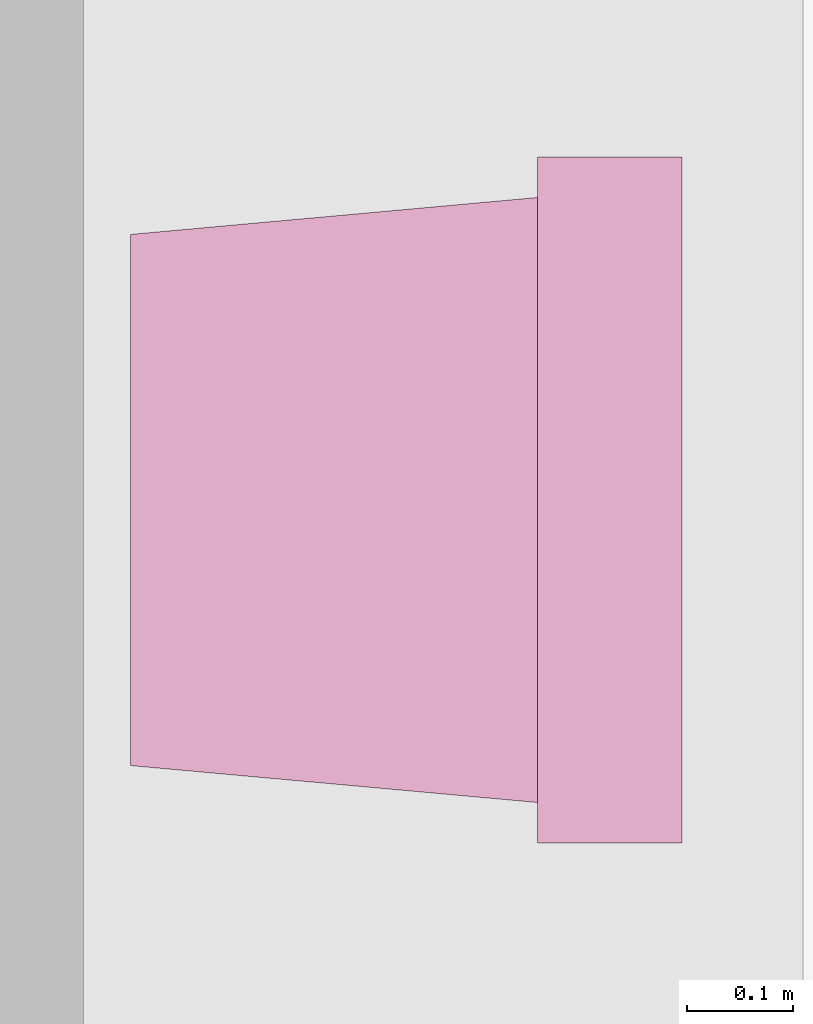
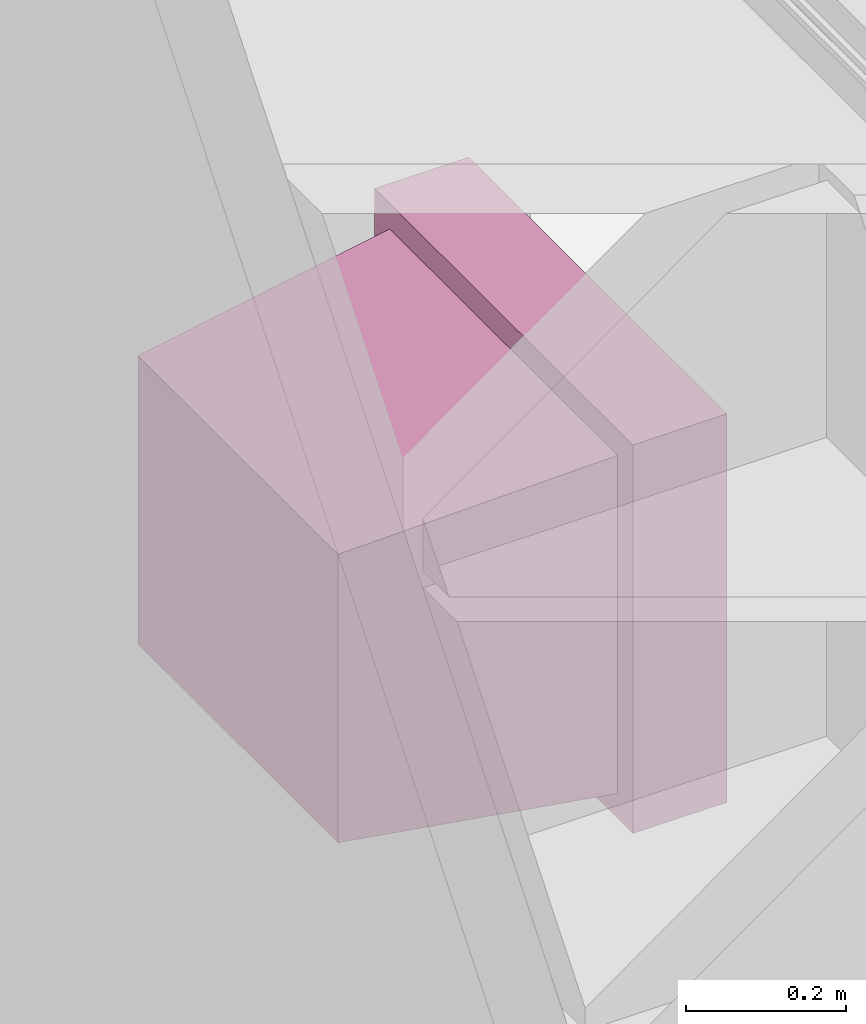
# One storey, part 26 of 28: 1 furnishing.
"""IFC2X3 building model written with IfcOpenShell, lengths in feet."""

from ifc_helpers import new_model, entity, si_unit, converted_unit, derived_unit, direction, frame, origin, place, context, subcontext, project, spatial, faceted_brep, source, transform, mapped, material, material_list, type_object, type_shapes, element, save


model = new_model("IFC2X3")

# Units and contexts
model_context = context("Model", 3, precision=0.0001, world=origin(), true_north=direction((6.12303176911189e-17, 1.0)))
body_context = subcontext(model_context, "Body", "Model", "MODEL_VIEW")
ifc_project = project(units=[converted_unit("LENGTHUNIT", "FOOT", entity("IfcRatioMeasure", 0.3048), si_unit("LENGTHUNIT", "METRE"), dimensions=[1, 0, 0, 0, 0, 0, 0]), converted_unit("AREAUNIT", "SQUARE FOOT", entity("IfcRatioMeasure", 0.09290304), si_unit("AREAUNIT", "SQUARE_METRE"), dimensions=[2, 0, 0, 0, 0, 0, 0]), converted_unit("VOLUMEUNIT", "CUBIC FOOT", entity("IfcRatioMeasure", 0.028316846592), si_unit("VOLUMEUNIT", "CUBIC_METRE"), dimensions=[3, 0, 0, 0, 0, 0, 0]), converted_unit("PLANEANGLEUNIT", "DEGREE", entity("IfcRatioMeasure", 0.0174532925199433), si_unit("PLANEANGLEUNIT", "RADIAN"), dimensions=[0, 0, 0, 0, 0, 0, 0]), si_unit("MASSUNIT", "GRAM", prefix="KILO"), derived_unit("MASSDENSITYUNIT", [(si_unit("MASSUNIT", "GRAM", prefix="KILO"), 1), (si_unit("LENGTHUNIT", "METRE"), -3)]), si_unit("TIMEUNIT", "SECOND"), si_unit("FREQUENCYUNIT", "HERTZ"), si_unit("THERMODYNAMICTEMPERATUREUNIT", "DEGREE_CELSIUS"), derived_unit("THERMALTRANSMITTANCEUNIT", [(si_unit("MASSUNIT", "GRAM", prefix="KILO"), 1), (si_unit("THERMODYNAMICTEMPERATUREUNIT", "KELVIN"), -1), (si_unit("TIMEUNIT", "SECOND"), -3)]), derived_unit("VOLUMETRICFLOWRATEUNIT", [(si_unit("LENGTHUNIT", "METRE"), 3), (si_unit("TIMEUNIT", "SECOND"), -1)]), si_unit("ELECTRICCURRENTUNIT", "AMPERE"), si_unit("ELECTRICVOLTAGEUNIT", "VOLT"), si_unit("POWERUNIT", "WATT"), si_unit("FORCEUNIT", "NEWTON"), si_unit("ILLUMINANCEUNIT", "LUX"), si_unit("LUMINOUSFLUXUNIT", "LUMEN"), si_unit("LUMINOUSINTENSITYUNIT", "CANDELA"), derived_unit("USERDEFINED", [(si_unit("MASSUNIT", "GRAM", prefix="KILO"), -1), (si_unit("LENGTHUNIT", "METRE"), -2), (si_unit("TIMEUNIT", "SECOND"), 3), (si_unit("LUMINOUSFLUXUNIT", "LUMEN"), 1)]), derived_unit("LINEARVELOCITYUNIT", [(si_unit("LENGTHUNIT", "METRE"), 1), (si_unit("TIMEUNIT", "SECOND"), -1)]), si_unit("PRESSUREUNIT", "PASCAL"), derived_unit("USERDEFINED", [(si_unit("LENGTHUNIT", "METRE"), -2), (si_unit("MASSUNIT", "GRAM", prefix="KILO"), 1), (si_unit("TIMEUNIT", "SECOND"), -2)])], contexts=[model_context])

# Site, building, storey
site_placement = place(None, origin())
site = spatial("IfcSite", under=ifc_project, at=site_placement, Name="表面", CompositionType="ELEMENT")
building_placement = place(site_placement, origin())
building = spatial("IfcBuilding", under=site, at=building_placement, CompositionType="ELEMENT")
storey_placement = place(building_placement, frame((0.0, 0.0, 10.0)))
storey = spatial("IfcBuildingStorey", under=building, at=storey_placement, Name="Level 2", CompositionType="ELEMENT", Elevation=9.99999999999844)

# Furnishing
ifc_material_1 = material(Name="Plastic - Gray")
ifc_material_2 = material(Name="Glass")
ifc_material_list_1 = material_list([ifc_material_1, ifc_material_2])
ifc_material_list_2 = material_list([ifc_material_1, ifc_material_2])
furniture_type = type_object("IfcFurnitureType", Name="27\"", material=ifc_material_list_2)
shared_shape = source(origin(), body_context, "Body", "Brep", [
    faceted_brep([(1.06250000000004, -0.725260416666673, 1.95052083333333), (-1.06249999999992, -0.725260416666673, 1.95052083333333), (-1.06249999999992, -1.17317708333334, 1.95052083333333), (1.06250000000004, -1.17317708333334, 1.95052083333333), (1.06250000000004, -0.725260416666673, 0.0), (1.06250000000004, -1.17317708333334, 0.0), (-1.06249999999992, -1.17317708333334, 0.0), (-1.06249999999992, -0.725260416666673, 0.0), (0.937500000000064, -1.17317708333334, 1.82291666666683), (0.937500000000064, -1.17317708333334, 0.249999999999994), (-0.937500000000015, -1.17317708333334, 0.249999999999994), (-0.937500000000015, -1.17317708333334, 1.82291666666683), (0.937500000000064, -1.12485700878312, 1.82291666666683), (-0.937500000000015, -1.12485700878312, 1.82291666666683), (-0.937500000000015, -1.12485700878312, 0.249999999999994), (0.937500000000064, -1.12485700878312, 0.249999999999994)], [[[0, 1, 2, 3]], [[4, 5, 6, 7]], [[1, 0, 4, 7]], [[2, 1, 7, 6]], [[3, 2, 6, 5], [8, 9, 10, 11]], [[0, 3, 5, 4]], [[12, 13, 14, 15]], [[12, 15, 9, 8]], [[15, 14, 10, 9]], [[14, 13, 11, 10]], [[13, 12, 8, 11]]]),
    faceted_brep([(0.937500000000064, -1.14583333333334, 1.82291666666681), (-0.937500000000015, -1.14583333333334, 1.82291666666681), (-0.937500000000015, -1.14583333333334, 0.249999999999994), (0.937500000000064, -1.14583333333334, 0.249999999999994), (0.937500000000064, -1.12485700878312, 1.82291666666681), (0.937500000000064, -1.12485700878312, 0.249999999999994), (-0.937500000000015, -1.12485700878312, 0.249999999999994), (-0.937500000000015, -1.12485700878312, 1.82291666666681)], [[[0, 1, 2, 3]], [[4, 5, 6, 7]], [[1, 0, 4, 7]], [[2, 1, 7, 6]], [[3, 2, 6, 5]], [[0, 3, 5, 4]]]),
    faceted_brep([(0.822916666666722, 0.536458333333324, 1.69791666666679), (0.822916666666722, 0.536458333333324, 0.250000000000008), (-0.822916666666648, 0.536458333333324, 0.250000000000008), (-0.822916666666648, 0.536458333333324, 1.69791666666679), (0.937500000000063, -0.725260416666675, 1.82291666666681), (-0.937500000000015, -0.725260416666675, 1.82291666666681), (-0.937500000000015, -0.725260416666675, 0.125000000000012), (0.937500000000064, -0.725260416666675, 0.125000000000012)], [[[0, 1, 2, 3]], [[4, 5, 6, 7]], [[4, 7, 1, 0]], [[7, 6, 2, 1]], [[6, 5, 3, 2]], [[5, 4, 0, 3]]]),
])
type_shapes(furniture_type, [shared_shape])
furnishing_placement = place(storey_placement, frame((-13.0563974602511, -7.5526323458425, 2.76041666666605), z_axis=(0.0, 0.0, 1.0), x_axis=(0.0, 1.0, 0.0)))
element("IfcFurnishingElement", 1, at=furnishing_placement, inside=storey, type_object=furniture_type, material=ifc_material_list_1, Name="Television:27\"", ObjectType="27\"", context=body_context, shape_type="MappedRepresentation", body=[
    mapped(shared_shape, transform((0.0, 0.0, 0.0), scale=1.0)),
])

save(model, "model.ifc")
